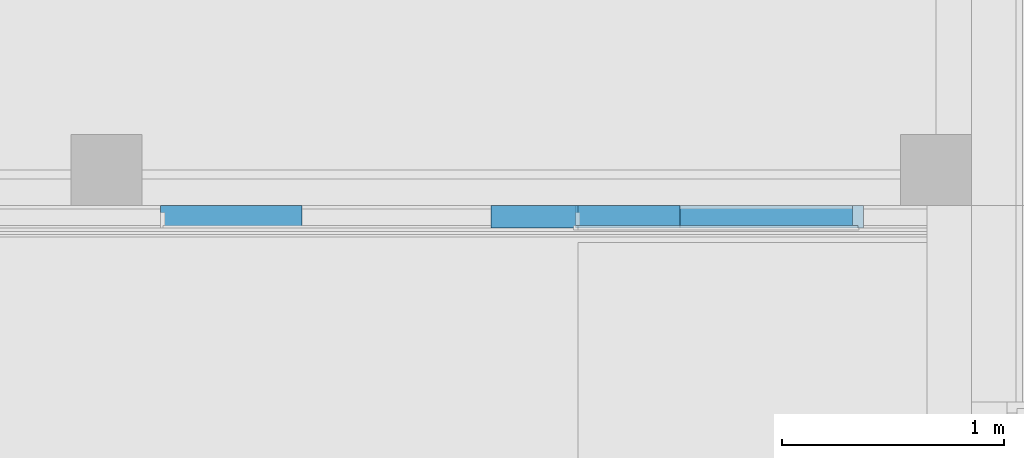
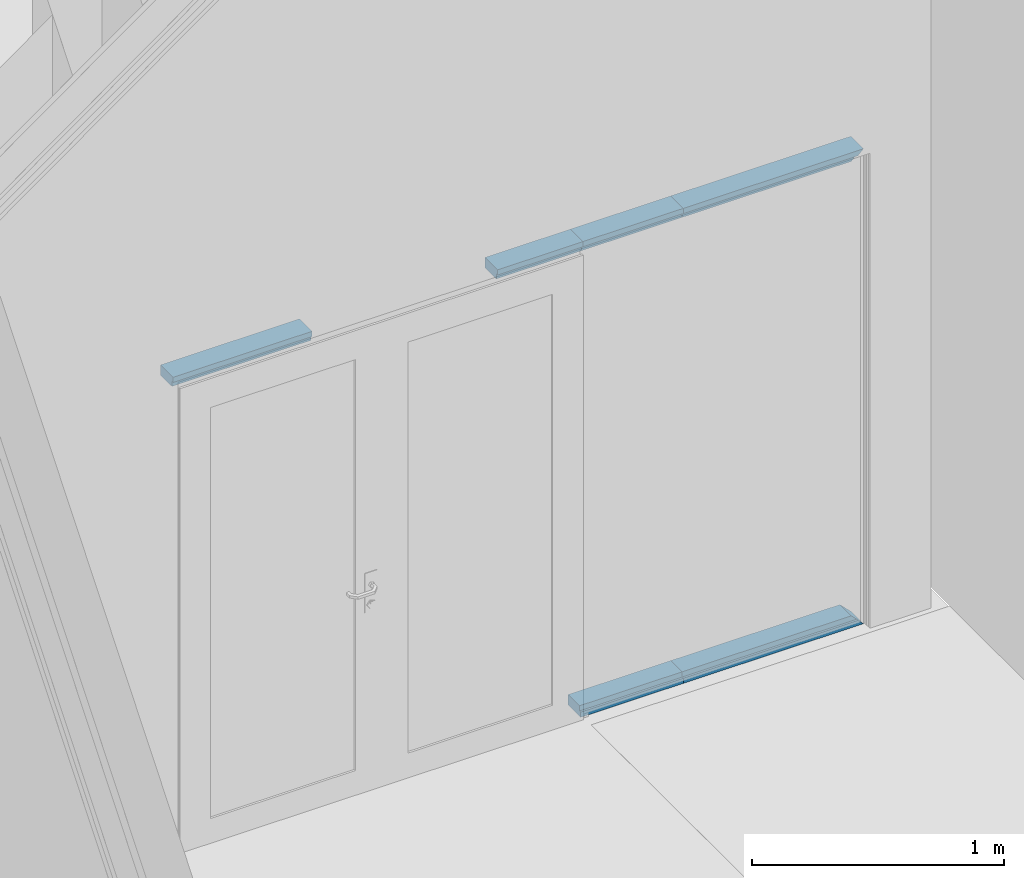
# One storey, part 100 of 260: 6 members, 1 element without a shape of its own.
"""IFC2X3 building model written with IfcOpenShell, lengths in millimetres."""

from ifc_helpers import new_model, entity, si_unit, converted_unit, derived_unit, money_unit, direction, frame, origin_with_axes, place, context, subcontext, project, spatial, faceted_brep, material, type_object, element, aggregate, save


model = new_model("IFC2X3")

# Units and contexts
model_context = context("Model", 3, precision=0.01, world=origin_with_axes(), true_north=direction((0.0, 1.0)))
body_context = subcontext(model_context, "Body", "Model", "MODEL_VIEW")
ifc_project = project(units=[si_unit("LENGTHUNIT", "METRE", prefix="MILLI"), si_unit("AREAUNIT", "SQUARE_METRE"), si_unit("VOLUMEUNIT", "CUBIC_METRE"), converted_unit("PLANEANGLEUNIT", "DEGREE", entity("IfcPlaneAngleMeasure", 0.0174532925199), si_unit("PLANEANGLEUNIT", "RADIAN"), dimensions=[0, 0, 0, 0, 0, 0, 0]), money_unit("EUR"), converted_unit("TIMEUNIT", "Year", entity("IfcTimeMeasure", 31556926.0), si_unit("TIMEUNIT", "SECOND"), dimensions=[0, 0, 1, 0, 0, 0, 0]), si_unit("MASSUNIT", "GRAM", prefix="KILO"), si_unit("THERMODYNAMICTEMPERATUREUNIT", "DEGREE_CELSIUS"), si_unit("LUMINOUSINTENSITYUNIT", "LUMEN"), si_unit("ENERGYUNIT", "JOULE", prefix="MEGA"), derived_unit("THERMALCONDUCTANCEUNIT", [(si_unit("POWERUNIT", "WATT"), 1), (si_unit("LENGTHUNIT", "METRE"), -1), (si_unit("THERMODYNAMICTEMPERATUREUNIT", "KELVIN"), -1)]), derived_unit("SPECIFICHEATCAPACITYUNIT", [(si_unit("ENERGYUNIT", "JOULE"), 1), (si_unit("MASSUNIT", "GRAM", prefix="KILO"), -1), (si_unit("THERMODYNAMICTEMPERATUREUNIT", "KELVIN"), -1)]), derived_unit("MASSDENSITYUNIT", [(si_unit("MASSUNIT", "GRAM", prefix="KILO"), 1), (si_unit("VOLUMEUNIT", "CUBIC_METRE"), -1)])], contexts=[model_context])

# Site, building, storey
site_placement = place(None, origin_with_axes())
site = spatial("IfcSite", under=ifc_project, at=site_placement, Name="Kolde pst 67a", CompositionType="ELEMENT")
building_placement = place(site_placement, origin_with_axes())
building = spatial("IfcBuilding", under=site, at=building_placement, Name="Riigigümnaasium", CompositionType="ELEMENT")
storey_placement = place(building_placement, origin_with_axes())
storey = spatial("IfcBuildingStorey", under=building, at=storey_placement, Name="1. korrus", CompositionType="ELEMENT", Elevation=0.0)

# Curtain wall, members
curtain_wall_type = type_object("IfcCurtainWallType", Name="Curtain Wall Type", PredefinedType="NOTDEFINED")
curtain_wall_placement = place(storey_placement, frame((33792.224013, 66989.9967931, 0.0), z_axis=(0.0, 0.0, 1.0), x_axis=(1.0, 0.0, 0.0)))
curtain_wall = element("IfcCurtainWall", 1, at=curtain_wall_placement, inside=storey, type_object=curtain_wall_type, Name="KLAASSEIN")
ifc_material = material(Name="_GENEERILINE MATERJAL")
member_type = type_object("IfcMemberType", Name="Boundary Frame 50 x 100", PredefinedType="MEMBER")
member_1_placement = place(curtain_wall_placement, frame((-999.72428287, 0.0, 2300.0), z_axis=(1.0, 0.0, 0.0), x_axis=(0.0, 0.0, 1.0)))
member_1 = element("IfcMember", 2, at=member_1_placement, type_object=member_type, material=ifc_material, Name="RF RAAM SERV-130", ObjectType="MEMBER", context=body_context, shape_type="Brep", body=[
    faceted_brep([(-50.0, -10.0, 0.0), (-50.0, -100.0, 0.0), (-50.0, -100.0, 636.168756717), (-50.0, -10.0, 636.168756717), (-25.0, -10.0, 0.0), (-25.0, 0.0, 0.0), (0.0, 0.0, 0.0), (0.0, -100.0, 0.0), (0.0, -100.0, 636.168756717), (-25.0, -10.0, 636.168756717), (0.0, 0.0, 636.168756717), (-25.0, 0.0, 636.168756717)], [[[0, 1, 2, 3]], [[4, 5, 6, 7, 1, 0]], [[1, 7, 8, 2]], [[9, 3, 2, 8, 10, 11]], [[9, 4, 0, 3]], [[5, 4, 9, 11]], [[11, 10, 6, 5]], [[7, 6, 10, 8]]]),
])
member_2_placement = place(curtain_wall_placement, frame((876.835335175, 0.0, 2300.0), z_axis=(1.0, 0.0, 0.0), x_axis=(0.0, 0.0, 1.0)))
member_2 = element("IfcMember", 3, at=member_2_placement, type_object=member_type, material=ifc_material, Name="RF RAAM SERV-138", ObjectType="MEMBER", context=body_context, shape_type="Brep", body=[
    faceted_brep([(-50.0, -10.0, 0.0), (-50.0, -100.0, 0.0), (-50.0, -100.0, 459.609138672), (-50.0, -10.0, 459.609138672), (-25.0, -10.0, 0.0), (-25.0, 0.0, 0.0), (0.0, 0.0, 0.0), (0.0, -100.0, 0.0), (0.0, -100.0, 459.609138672), (-25.0, -10.0, 459.609138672), (0.0, 0.0, 459.609138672), (-25.0, 0.0, 459.609138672)], [[[0, 1, 2, 3]], [[4, 5, 6, 7, 1, 0]], [[1, 7, 8, 2]], [[9, 3, 2, 8, 10, 11]], [[9, 4, 0, 3]], [[5, 4, 9, 11]], [[11, 10, 6, 5]], [[7, 6, 10, 8]]]),
])
member_3_placement = place(curtain_wall_placement, frame((876.835335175, 0.0, 0.0), z_axis=(1.0, 0.0, 0.0), x_axis=(0.0, 0.0, 1.0)))
member_3 = element("IfcMember", 4, at=member_3_placement, type_object=member_type, material=ifc_material, Name="RF RAAM SERV-134", ObjectType="MEMBER", context=body_context, shape_type="Brep", body=[
    faceted_brep([(50.0, -10.0, -10.0), (50.0, -10.0, 459.609138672), (50.0, -100.0, 459.609138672), (50.0, -100.0, -10.0), (25.0, -10.0, 459.609138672), (25.0, -10.0, -10.0), (25.0, 0.0, 459.609138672), (0.0, 0.0, 459.609138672), (0.0, -100.0, 459.609138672), (0.0, -100.0, -10.0), (0.0, 0.0, -10.0), (25.0, 0.0, -10.0)], [[[0, 1, 2, 3]], [[4, 1, 0, 5]], [[4, 6, 7, 8, 2, 1]], [[3, 2, 8, 9]], [[5, 0, 3, 9, 10, 11]], [[11, 6, 4, 5]], [[6, 11, 10, 7]], [[9, 8, 7, 10]]]),
])
member_4_placement = place(curtain_wall_placement, frame((1336.44447385, 0.0, 0.0), z_axis=(1.0, 0.0, 0.0), x_axis=(0.0, 0.0, 1.0)))
member_4 = element("IfcMember", 5, at=member_4_placement, type_object=member_type, material=ifc_material, Name="RF RAAM SERV-135", ObjectType="MEMBER", context=body_context, shape_type="Brep", body=[
    faceted_brep([(50.0, -10.0, 0.0), (50.0, -10.0, 775.000021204), (50.0, -100.0, 775.000021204), (50.0, -100.0, 0.0), (25.0, -10.0, 800.000021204), (25.0, -10.0, 0.0), (25.0, 0.0, 800.000021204), (0.0, 0.0, 825.000021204), (0.0, -100.0, 825.000021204), (0.0, -100.0, 0.0), (0.0, 0.0, 0.0), (25.0, 0.0, 0.0)], [[[0, 1, 2, 3]], [[4, 1, 0, 5]], [[4, 6, 7, 8, 2, 1]], [[3, 2, 8, 9]], [[5, 0, 3, 9, 10, 11]], [[11, 6, 4, 5]], [[6, 11, 10, 7]], [[9, 8, 7, 10]]]),
])
member_5_placement = place(curtain_wall_placement, frame((486.444473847, 0.0, 2300.0), z_axis=(1.0, 0.0, 0.0), x_axis=(0.0, 0.0, 1.0)))
member_5 = element("IfcMember", 6, at=member_5_placement, type_object=member_type, material=ifc_material, Name="RF RAAM SERV-141", ObjectType="MEMBER", context=body_context, shape_type="Brep", body=[
    faceted_brep([(-50.0, -10.0, 0.0), (-50.0, -100.0, 0.0), (-50.0, -100.0, 390.390861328), (-50.0, -10.0, 390.390861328), (-25.0, -10.0, 0.0), (-25.0, 0.0, 0.0), (0.0, 0.0, 0.0), (0.0, -100.0, 0.0), (0.0, -100.0, 390.390861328), (-25.0, -10.0, 390.390861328), (0.0, 0.0, 390.390861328), (-25.0, 0.0, 390.390861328)], [[[0, 1, 2, 3]], [[4, 5, 6, 7, 1, 0]], [[1, 7, 8, 2]], [[9, 3, 2, 8, 10, 11]], [[9, 4, 0, 3]], [[5, 4, 9, 11]], [[11, 10, 6, 5]], [[7, 6, 10, 8]]]),
])
member_6_placement = place(curtain_wall_placement, frame((1336.44447385, 0.0, 2300.0), z_axis=(1.0, 0.0, 0.0), x_axis=(0.0, 0.0, 1.0)))
member_6 = element("IfcMember", 7, at=member_6_placement, type_object=member_type, material=ifc_material, Name="RF RAAM SERV-143", ObjectType="MEMBER", context=body_context, shape_type="Brep", body=[
    faceted_brep([(-50.0, -10.0, 0.0), (-50.0, -100.0, 0.0), (-50.0, -100.0, 775.000021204), (-50.0, -10.0, 775.000021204), (-25.0, -10.0, 0.0), (-25.0, 0.0, 0.0), (0.0, 0.0, 0.0), (0.0, -100.0, 0.0), (0.0, -100.0, 825.000021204), (-25.0, -10.0, 800.000021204), (0.0, 0.0, 825.000021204), (-25.0, 0.0, 800.000021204)], [[[0, 1, 2, 3]], [[4, 5, 6, 7, 1, 0]], [[1, 7, 8, 2]], [[9, 3, 2, 8, 10, 11]], [[9, 4, 0, 3]], [[5, 4, 9, 11]], [[11, 10, 6, 5]], [[7, 6, 10, 8]]]),
])
aggregate(curtain_wall, [member_1, member_2, member_3, member_4, member_5, member_6])

save(model, "model.ifc")
